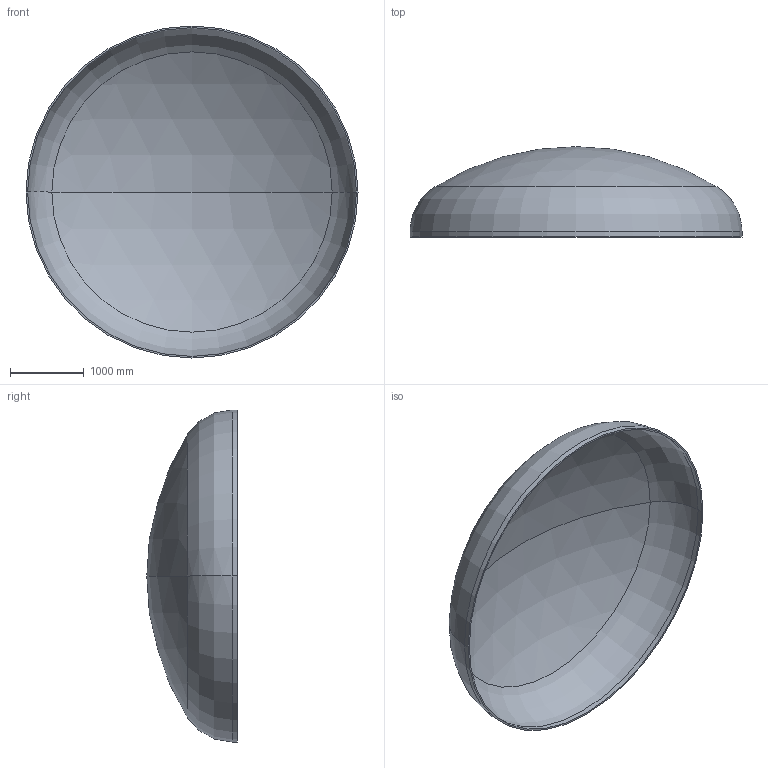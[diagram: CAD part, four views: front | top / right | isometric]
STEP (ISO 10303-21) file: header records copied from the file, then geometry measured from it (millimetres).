
FILE_DESCRIPTION (( 'STEP AP203' ), '1' );
FILE_NAME ('DIN 28013 Korbbogenform_-_Boden DIN 28013 - 4500 x 70 - I - s=22.step', '2016-07-01T23:10:27', ( '' ), ( '' ), 'SwSTEP 2.0', 'SolidWorks 2013', '' );
FILE_SCHEMA (( 'CONFIG_CONTROL_DESIGN' ));
Length unit declared in the file: millimetre
Products named in the file (1): DIN 28013 Korbbogenform_-_Boden DIN 28013 - 4500 x 70 - I - s=22
Bounding box: 4500 x 1224.42 x 4500 mm (x, y, z)
Volume: 503430675.6 mm3; surface area: 46076917.8 mm2
Topology: 1 solids, 1 shells, 13 faces, 24 edges, 14 vertices
Faces by surface type: torus 4, cylinder 4, sphere 4, plane 1
Entity records: 407 total; most frequent: DIRECTION 72, CARTESIAN_POINT 52, ORIENTED_EDGE 48, AXIS2_PLACEMENT_3D 34, EDGE_CURVE 24, CIRCLE 20, VERTEX_POINT 14, EDGE_LOOP 14
